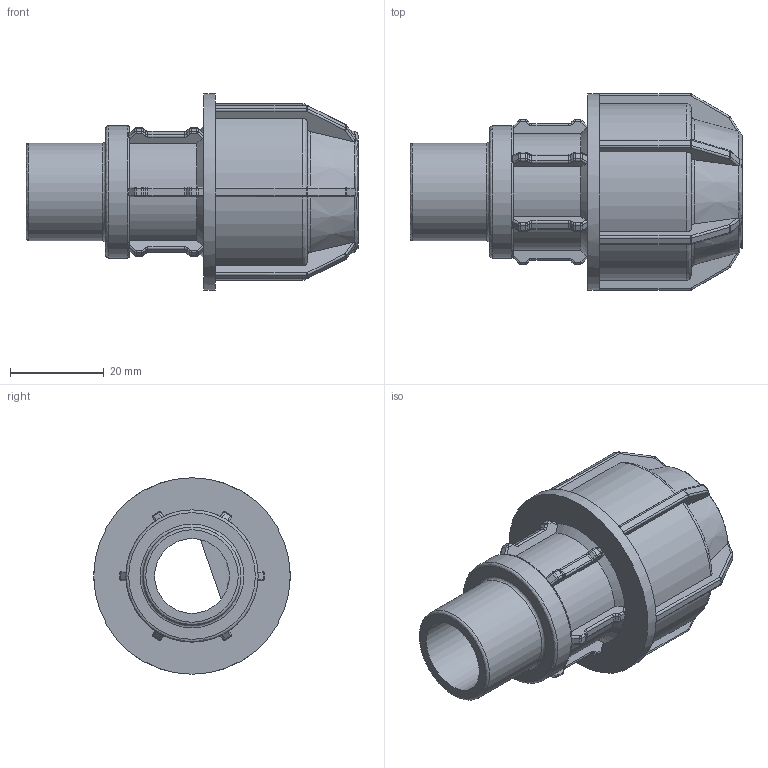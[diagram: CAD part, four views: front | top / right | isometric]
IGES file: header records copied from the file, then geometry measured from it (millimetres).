
Global section: file name: 140200020005.ipt; native system: Autodesk Inventor 2015; preprocessor: unknown; author: KIM; date: 20180409.130927; units: millimetre
Bounding box: 71 x 42 x 42 mm (x, y, z)
Volume: 30880.5 mm3; surface area: 14146.4 mm2
Topology: 1 solids, 1 shells, 470 faces, 1170 edges, 701 vertices
Faces by surface type: cylinder 171, plane 158, revolution 129, cone 12
Full cylindrical faces by diameter (mm): 20.955 x1, 28.289 x1, 42 x1
